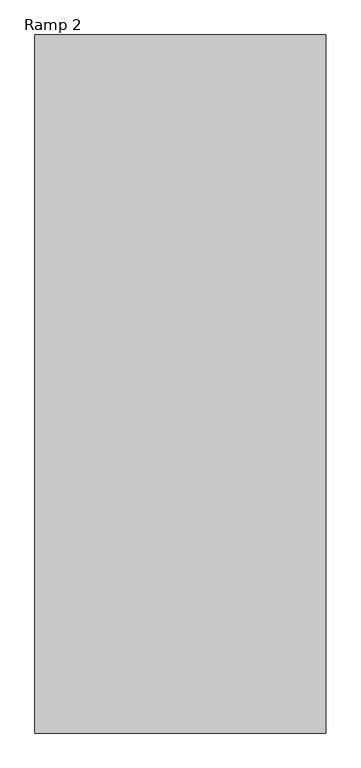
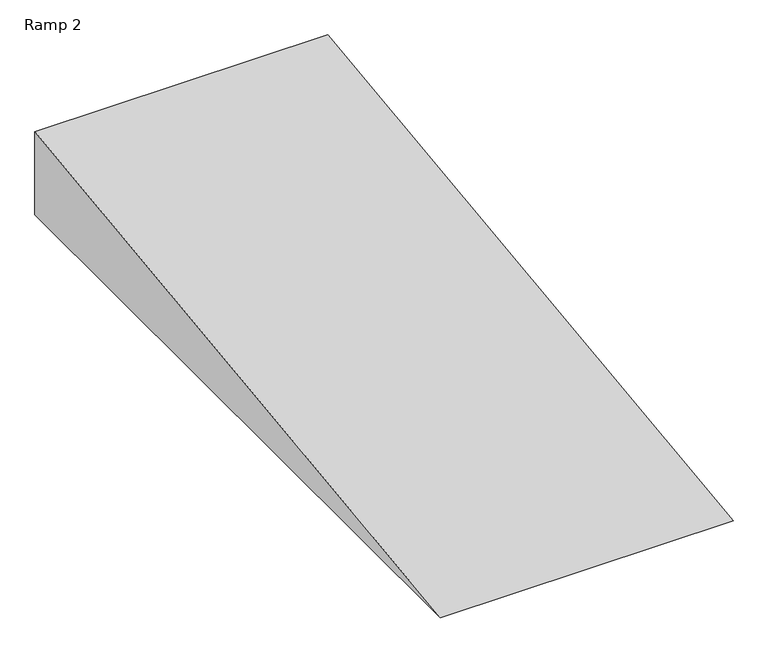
"""IFC4 building model written with IfcOpenShell, lengths in millimetres: ramp geometry, Ramp 2."""

from ifc_helpers import new_model, si_unit, frame, origin, place, context, project, spatial, polyline, outline, extrude, source, transform, mapped, element, save


def ramp_2_3e3c73fb(model_context):
    return source(origin(), model_context, "Body", "SweptSolid", [
        extrude(outline(polyline([(-8472.2859239, -914.4), (-1157.0859239, 0.0), (-1157.0859239, -914.4), (-8472.2859239, -914.4)])), frame((-3397.6845581, 0.0, 0.0), z_axis=(1.0, 0.0, 0.0), x_axis=(0.0, 1.0, 0.0)), (0.0, 0.0, 1.0), 3048.0),
    ])


if __name__ == "__main__":
    model = new_model("IFC4")
    model_context = context("Model", 3, world=origin())
    ifc_project = project(units=[si_unit("LENGTHUNIT", "METRE", prefix="MILLI")], contexts=[model_context])
    site = spatial("IfcSite", under=ifc_project)
    building = spatial("IfcBuilding", under=site)
    placement = place(None, origin())
    ramp_2_shape = ramp_2_3e3c73fb(model_context)
    element("IfcRamp", 1, ObjectType="Ramp 2", at=placement, inside=building, context=model_context, shape_type="MappedRepresentation", body=[
        mapped(ramp_2_shape, transform((0.0, 0.0, 0.0), x_axis=(1.0, 0.0, 0.0), y_axis=(0.0, 1.0, 0.0), z_axis=(0.0, 0.0, 1.0))),
    ])
    save(model, "model.ifc")
